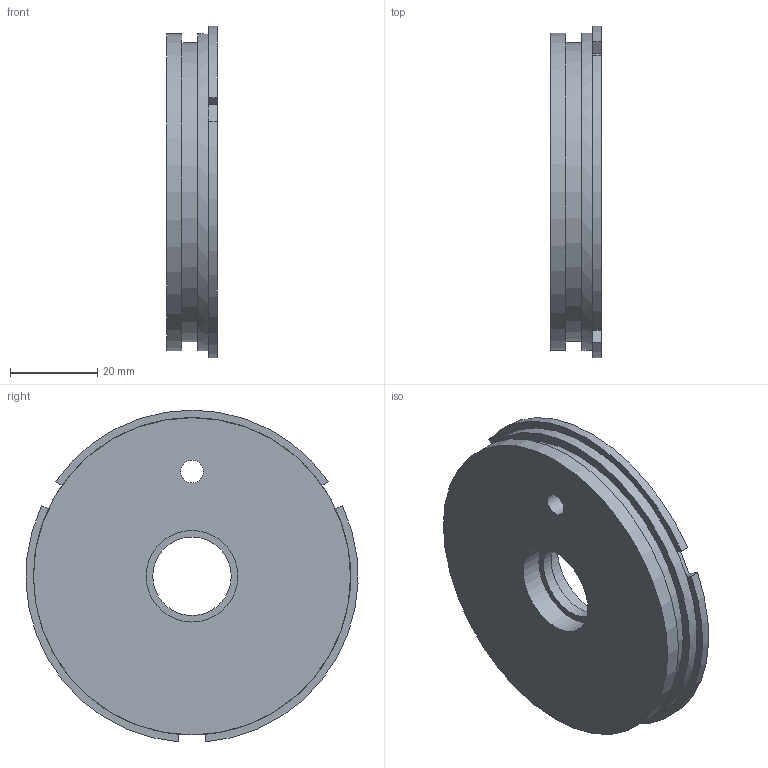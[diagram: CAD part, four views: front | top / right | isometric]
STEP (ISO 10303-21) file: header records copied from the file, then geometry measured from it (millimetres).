
FILE_DESCRIPTION(('Open CASCADE Model'),'2;1');
FILE_NAME('Open CASCADE Shape Model','2026-10-31T23:30:59',('Author'),( 'Open CASCADE'),'Open CASCADE STEP processor 7.9','Open CASCADE 7.9' ,'Unknown');
FILE_SCHEMA(('AUTOMOTIVE_DESIGN { 1 0 10303 214 1 1 1 1 }'));
Length unit declared in the file: millimetre
Products named in the file (1): Open CASCADE STEP translator 7.9 4
Bounding box: 11.6 x 76.13 x 76.07 mm (x, y, z)
Volume: 42117.3 mm3; surface area: 13577.1 mm2
Topology: 1 solids, 1 shells, 37 faces, 84 edges, 56 vertices
Faces by surface type: plane 24, cylinder 13
Full cylindrical faces by diameter (mm): 5.2 x1, 11 x1, 18 x1, 21 x1, 22 x1, 28 x1, 34 x1, 68.59 x1, 72.75 x2
Entity records: 2145 total; most frequent: CARTESIAN_POINT 478, DIRECTION 293, ORIENTED_EDGE 168, PCURVE 168, DEFINITIONAL_REPRESENTATION 168, LINE 134, VECTOR 134, EDGE_CURVE 84
